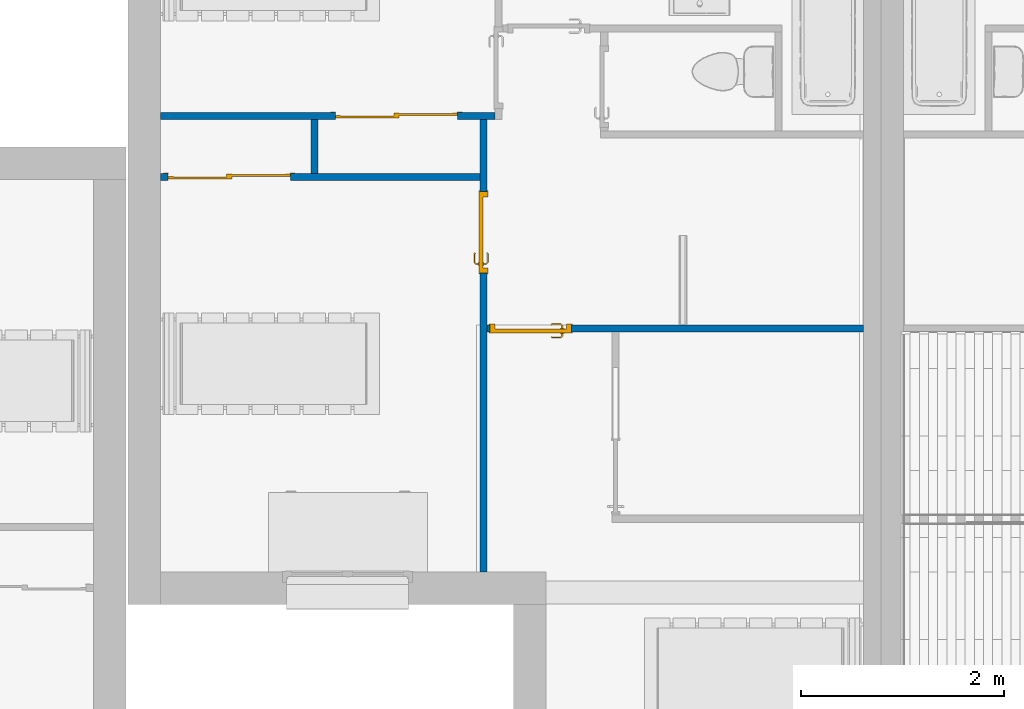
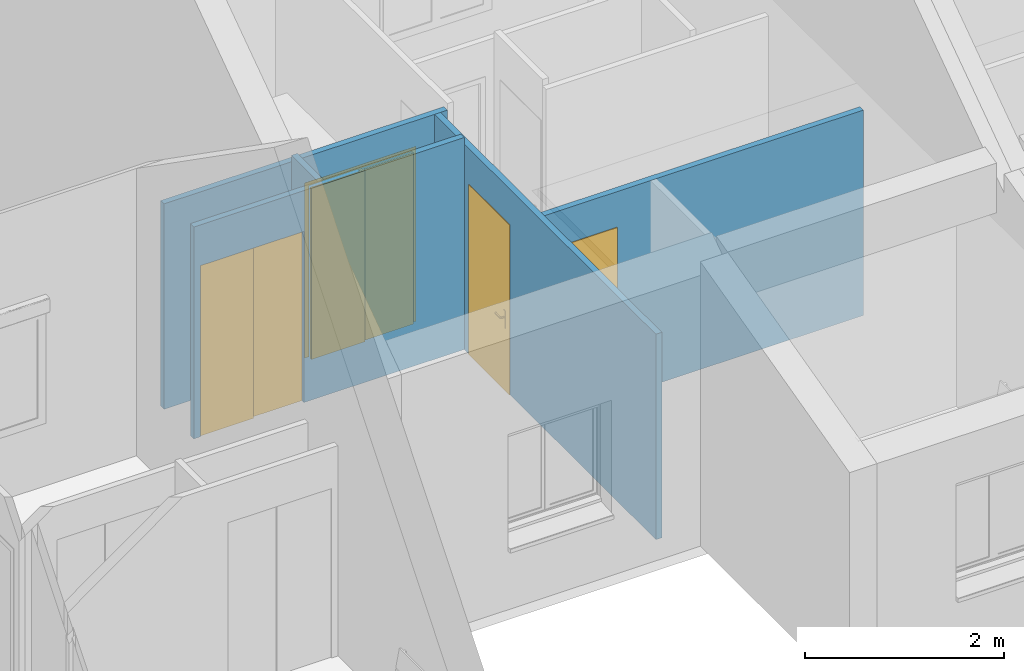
# One storey, part 30 of 50: 5 walls, 4 doors, 4 openings.
"""IFC2X3 building model written with IfcOpenShell, lengths in metres."""

from ifc_helpers import new_model, entity, si_unit, converted_unit, derived_unit, direction, frame, frame_2d, origin, origin_2d_with_axis, place, context, subcontext, project, spatial, polyline, circle_curve, parameter, trimmed, segment, composite_curve, rectangle, outline, extrude, faceted_brep, source, transform, mapped, material, material_list, layer, layer_set, layer_usage, type_object, type_shapes, element, fill, save


model = new_model("IFC2X3")

# Units and contexts
model_context = context("Model", 3, precision=1e-05, world=origin(), true_north=direction((6.12303176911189e-17, 1.0)))
context_of_model = context(None, 3, precision=1e-05, world=origin(), true_north=direction((6.12303176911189e-17, 1.0)))
body_context = subcontext(model_context, "Body", "Model", "MODEL_VIEW")
ifc_project = project(units=[si_unit("LENGTHUNIT", "METRE"), si_unit("AREAUNIT", "SQUARE_METRE"), si_unit("VOLUMEUNIT", "CUBIC_METRE"), converted_unit("PLANEANGLEUNIT", "DEGREE", entity("IfcRatioMeasure", 0.0174532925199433), si_unit("PLANEANGLEUNIT", "RADIAN"), dimensions=[0, 0, 0, 0, 0, 0, 0]), si_unit("MASSUNIT", "GRAM", prefix="KILO"), si_unit("TIMEUNIT", "SECOND"), si_unit("FREQUENCYUNIT", "HERTZ"), si_unit("THERMODYNAMICTEMPERATUREUNIT", "DEGREE_CELSIUS"), derived_unit("THERMALTRANSMITTANCEUNIT", [(si_unit("MASSUNIT", "GRAM", prefix="KILO"), 1), (si_unit("THERMODYNAMICTEMPERATUREUNIT", "KELVIN"), -1), (si_unit("TIMEUNIT", "SECOND"), -3)]), derived_unit("VOLUMETRICFLOWRATEUNIT", [(si_unit("LENGTHUNIT", "METRE"), 3), (si_unit("TIMEUNIT", "SECOND"), -1)]), si_unit("ELECTRICCURRENTUNIT", "AMPERE"), si_unit("ELECTRICVOLTAGEUNIT", "VOLT"), si_unit("POWERUNIT", "WATT"), si_unit("FORCEUNIT", "NEWTON", prefix="KILO"), si_unit("ILLUMINANCEUNIT", "LUX"), si_unit("LUMINOUSFLUXUNIT", "LUMEN"), si_unit("LUMINOUSINTENSITYUNIT", "CANDELA"), si_unit("PRESSUREUNIT", "PASCAL")], contexts=[model_context, context_of_model])

# Site, building, storey
site_placement = place(None, origin())
site = spatial("IfcSite", under=ifc_project, at=site_placement, Name="Surface", CompositionType="ELEMENT")
building_placement = place(site_placement, origin())
building = spatial("IfcBuilding", under=site, at=building_placement, CompositionType="ELEMENT")
storey_placement = place(building_placement, frame((0.0, 0.0, 2.82)))
storey = spatial("IfcBuildingStorey", under=building, at=storey_placement, Name="ETAGE", CompositionType="ELEMENT", Elevation=2.82)

# Wall, opening, door
ifc_material_1 = material(Name="Peinture - Blanc")
ifc_layer = layer(ifc_material_1, 0.07)
ifc_layer_set = layer_set([ifc_layer], Name="Mur de base:Int.  Platre 70 mm en blanc")
ifc_layer_usage_1 = layer_usage(ifc_layer_set, "AXIS2", "POSITIVE", -0.035)
wall_type = type_object("IfcWallType", Name="Mur de base:Int.  Platre 70 mm en blanc", PredefinedType="STANDARD", material=ifc_layer_set)
wall_1_placement = place(storey_placement, frame((79.7960189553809, 84.2475239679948, 0.0), z_axis=(0.0, 0.0, 1.0), x_axis=(0.0, 1.0, 0.0)))
wall_1 = element("IfcWallStandardCase", 1, at=wall_1_placement, inside=storey, type_object=wall_type, material=ifc_layer_usage_1, Name="Mur de base:Int.  Platre 70 mm en blanc", ObjectType="Mur de base:Int.  Platre 70 mm en blanc", context=body_context, shape_type="SweptSolid", body=[
    extrude(rectangle(XDim=4.44999999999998, YDim=0.0699999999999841, at=frame_2d((2.22499999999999, 0.0), x_axis=(-1.0, 0.0))), origin(), (0.0, 0.0, 1.0), 2.52),
])
opening_1_placement = place(wall_1_placement, frame((2.93999999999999, -0.035, 0.0)))
opening_1 = element("IfcOpeningElement", 2, at=opening_1_placement, cuts=wall_1, Name="FR_Simple (R):73 x 204 - (70):1", ObjectType="Opening", context=body_context, shape_type="SweptSolid", body=[
    extrude(rectangle(XDim=2.075, YDim=0.799999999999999, at=frame_2d((1.0375, 0.4), x_axis=(1.0, 0.0))), frame((0.0, 0.0, 0.0), z_axis=(0.0, 1.0, 0.0), x_axis=(0.0, 0.0, 1.0)), (0.0, 0.0, 1.0), 0.07),
])
ifc_material_2 = material(Name="Poignée Porte")
ifc_material_3 = material(Name="Dormants Portes")
ifc_material_4 = material(Name="Panneaux Portes")
ifc_material_list_1 = material_list([ifc_material_2, ifc_material_3, ifc_material_4])
ifc_material_list_2 = material_list([ifc_material_2, ifc_material_3, ifc_material_4])
door_style_1 = type_object("IfcDoorStyle", Name="73 x 204 - (70)", ConstructionType="NOTDEFINED", OperationType="SINGLE_SWING_RIGHT", ParameterTakesPrecedence=False, Sizeable=False, material=ifc_material_list_2)
shared_shape_1 = source(origin(), body_context, "Body", "Brep", [
    faceted_brep([(0.710000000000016, -0.0130000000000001, 0.764641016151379), (0.720352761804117, -0.0130000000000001, 0.766003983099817), (0.730000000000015, -0.0130000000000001, 0.770000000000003), (0.730000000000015, -0.0130000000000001, 0.980000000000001), (0.720352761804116, -0.0130000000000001, 0.983996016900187), (0.710000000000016, -0.0130000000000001, 0.985358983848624), (0.699647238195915, -0.0130000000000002, 0.983996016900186), (0.690000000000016, -0.0130000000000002, 0.980000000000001), (0.690000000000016, -0.0130000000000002, 0.770000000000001), (0.699647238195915, -0.0130000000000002, 0.766003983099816), (0.730000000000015, -0.00800000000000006, 0.980000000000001), (0.730000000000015, -0.00800000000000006, 0.770000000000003), (0.720352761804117, -0.00800000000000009, 0.766003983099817), (0.710000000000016, -0.00800000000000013, 0.764641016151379), (0.699647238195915, -0.00800000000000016, 0.766003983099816), (0.690000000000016, -0.00800000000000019, 0.770000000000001), (0.690000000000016, -0.00800000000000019, 0.980000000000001), (0.699647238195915, -0.00800000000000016, 0.983996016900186), (0.710000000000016, -0.00800000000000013, 0.985358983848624), (0.720352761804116, -0.00800000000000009, 0.983996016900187)], [[[0, 1, 2, 3, 4, 5, 6, 7, 8, 9]], [[10, 11, 12, 13, 14, 15, 16, 17, 18, 19]], [[1, 12, 11, 2]], [[0, 13, 12, 1]], [[9, 14, 13, 0]], [[9, 8, 15, 14]], [[15, 8, 7, 16]], [[6, 17, 16, 7]], [[5, 18, 17, 6]], [[4, 19, 18, 5]], [[4, 3, 10, 19]], [[10, 3, 2, 11]]]),
    faceted_brep([(0.730000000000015, 0.0319999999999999, 0.770000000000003), (0.730000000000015, 0.0319999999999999, 0.980000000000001), (0.720352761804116, 0.0319999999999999, 0.983996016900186), (0.710000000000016, 0.0319999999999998, 0.985358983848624), (0.699647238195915, 0.0319999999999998, 0.983996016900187), (0.690000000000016, 0.0319999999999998, 0.980000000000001), (0.690000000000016, 0.0319999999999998, 0.770000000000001), (0.699647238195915, 0.0319999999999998, 0.766003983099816), (0.710000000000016, 0.0319999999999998, 0.764641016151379), (0.720352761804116, 0.0319999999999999, 0.766003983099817), (0.710000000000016, 0.0369999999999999, 0.985358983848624), (0.720352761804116, 0.0369999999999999, 0.983996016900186), (0.730000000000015, 0.0369999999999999, 0.980000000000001), (0.730000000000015, 0.0369999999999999, 0.770000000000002), (0.720352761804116, 0.0369999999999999, 0.766003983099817), (0.710000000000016, 0.0369999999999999, 0.764641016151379), (0.699647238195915, 0.0369999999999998, 0.766003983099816), (0.690000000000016, 0.0369999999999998, 0.770000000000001), (0.690000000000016, 0.0369999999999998, 0.980000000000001), (0.699647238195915, 0.0369999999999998, 0.983996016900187)], [[[0, 1, 2, 3, 4, 5, 6, 7, 8, 9]], [[10, 11, 12, 13, 14, 15, 16, 17, 18, 19]], [[4, 19, 18, 5]], [[3, 10, 19, 4]], [[2, 11, 10, 3]], [[2, 1, 12, 11]], [[12, 1, 0, 13]], [[9, 14, 13, 0]], [[8, 15, 14, 9]], [[7, 16, 15, 8]], [[7, 6, 17, 16]], [[17, 6, 5, 18]]]),
    faceted_brep([(0.707974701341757, -0.0130000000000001, 0.907780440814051), (0.712025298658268, -0.0130000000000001, 0.907780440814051), (0.716000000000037, -0.0130000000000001, 0.906999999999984), (0.716000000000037, -0.0130000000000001, 0.892999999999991), (0.712025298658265, -0.0130000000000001, 0.892219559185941), (0.707974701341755, -0.0130000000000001, 0.89221955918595), (0.703999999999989, -0.0130000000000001, 0.893000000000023), (0.703999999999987, -0.0130000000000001, 0.90699999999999), (0.712025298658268, -0.0390045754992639, 0.907780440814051), (0.716000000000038, -0.0406509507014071, 0.906999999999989), (0.707974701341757, -0.0373267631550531, 0.907780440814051), (0.694298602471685, -0.0510028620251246, 0.907780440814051), (0.695976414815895, -0.0550534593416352, 0.907780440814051), (0.609142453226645, -0.0550534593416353, 0.90778044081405), (0.610820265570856, -0.0510028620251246, 0.90778044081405), (0.604342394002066, -0.0445249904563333, 0.90778044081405), (0.601478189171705, -0.0473891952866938, 0.90778044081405), (0.703999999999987, -0.0356803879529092, 0.90699999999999), (0.703999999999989, -0.0356803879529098, 0.893000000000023), (0.707974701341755, -0.0373267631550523, 0.89221955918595), (0.712025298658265, -0.0390045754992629, 0.89221955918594), (0.695976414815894, -0.0550534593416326, 0.89221955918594), (0.694298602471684, -0.0510028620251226, 0.89221955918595), (0.610820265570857, -0.0510028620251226, 0.89221955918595), (0.609142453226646, -0.0550534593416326, 0.89221955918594), (0.601478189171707, -0.0473891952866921, 0.89221955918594), (0.604342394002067, -0.044524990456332, 0.89221955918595), (0.716000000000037, -0.0406509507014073, 0.892999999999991), (0.69762279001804, -0.059028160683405, 0.906999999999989), (0.692652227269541, -0.0470281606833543, 0.90699999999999), (0.692652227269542, -0.0470281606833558, 0.893000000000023), (0.697622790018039, -0.0590281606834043, 0.892999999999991), (0.65255943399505, -0.053182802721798, 0.907878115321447), (0.657692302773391, -0.0590281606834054, 0.906999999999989), (0.607496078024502, -0.0590281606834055, 0.906999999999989), (0.652559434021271, -0.0470281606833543, 0.90699999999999), (0.612466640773, -0.0470281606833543, 0.906999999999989), (0.652559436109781, -0.0470281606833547, 0.893000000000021), (0.612466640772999, -0.0470281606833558, 0.893000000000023), (0.652559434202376, -0.0531828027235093, 0.892121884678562), (0.647426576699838, -0.0590281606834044, 0.892999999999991), (0.607496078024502, -0.0590281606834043, 0.892999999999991), (0.607152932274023, -0.0417144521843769, 0.89300000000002), (0.598667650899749, -0.0501997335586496, 0.892999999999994), (0.598667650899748, -0.0501997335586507, 0.906999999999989), (0.607152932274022, -0.0417144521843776, 0.906999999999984)], [[[0, 1, 2, 3, 4, 5, 6, 7]], [[2, 1, 8, 9]], [[1, 0, 10, 11, 12, 8]], [[13, 14, 15, 16]], [[0, 7, 17, 10]], [[18, 17, 7, 6]], [[5, 19, 18, 6]], [[5, 4, 20, 21, 22, 19]], [[23, 24, 25, 26]], [[3, 27, 20, 4]], [[9, 27, 3, 2]], [[9, 8, 12, 28]], [[10, 17, 29, 11]], [[30, 29, 17, 18]], [[18, 19, 22, 30]], [[20, 27, 31, 21]], [[28, 31, 27, 9]], [[12, 32, 33]], [[13, 33, 32]], [[33, 28, 12]], [[33, 13, 34]], [[11, 35, 32]], [[32, 12, 11]], [[32, 35, 14]], [[35, 11, 29]], [[36, 14, 35]], [[13, 32, 14]], [[30, 37, 38, 36, 35, 29]], [[39, 37, 22]], [[40, 41, 24]], [[40, 21, 31]], [[39, 21, 40]], [[23, 37, 39]], [[39, 24, 23]], [[30, 22, 37]], [[37, 23, 38]], [[21, 39, 22]], [[24, 39, 40]], [[31, 28, 33, 34, 41, 40]], [[42, 26, 25, 43, 44, 16, 15, 45]], [[13, 16, 44, 34]], [[36, 45, 15, 14]], [[42, 45, 36, 38]], [[38, 23, 26, 42]], [[24, 41, 43, 25]], [[44, 43, 41, 34]]]),
    faceted_brep([(0.712025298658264, 0.0369999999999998, 0.907780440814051), (0.707974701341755, 0.0369999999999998, 0.907780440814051), (0.703999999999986, 0.0369999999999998, 0.90699999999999), (0.703999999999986, 0.0369999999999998, 0.89300000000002), (0.707974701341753, 0.0369999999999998, 0.892219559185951), (0.712025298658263, 0.0369999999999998, 0.892219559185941), (0.716000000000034, 0.0369999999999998, 0.892999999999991), (0.716000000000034, 0.0369999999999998, 0.90699999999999), (0.703999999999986, 0.0594852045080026, 0.90699999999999), (0.703999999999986, 0.0594852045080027, 0.89300000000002), (0.707974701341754, 0.0611315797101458, 0.907780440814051), (0.712025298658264, 0.0628093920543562, 0.907780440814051), (0.695838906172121, 0.0789957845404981, 0.907780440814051), (0.69416109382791, 0.0749451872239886, 0.907780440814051), (0.610793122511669, 0.0749451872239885, 0.907780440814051), (0.609115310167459, 0.0789957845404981, 0.907780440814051), (0.601451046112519, 0.071331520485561, 0.907780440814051), (0.604315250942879, 0.0684673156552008, 0.907780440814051), (0.716000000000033, 0.0644557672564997, 0.90699999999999), (0.716000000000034, 0.0644557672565, 0.892999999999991), (0.712025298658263, 0.0628093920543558, 0.892219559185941), (0.707974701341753, 0.0611315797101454, 0.892219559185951), (0.69416109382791, 0.0749451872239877, 0.892219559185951), (0.69583890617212, 0.0789957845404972, 0.892219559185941), (0.609115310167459, 0.0789957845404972, 0.89221955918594), (0.610793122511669, 0.0749451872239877, 0.89221955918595), (0.60431525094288, 0.0684673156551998, 0.89221955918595), (0.60145104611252, 0.07133152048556, 0.89221955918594), (0.692514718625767, 0.07097048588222, 0.89300000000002), (0.692514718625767, 0.0709704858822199, 0.90699999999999), (0.697485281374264, 0.0829704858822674, 0.90699999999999), (0.697485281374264, 0.082970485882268, 0.892999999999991), (0.652477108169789, 0.0709704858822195, 0.90699999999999), (0.612439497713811, 0.0709704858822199, 0.90699999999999), (0.612439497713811, 0.0709704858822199, 0.89300000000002), (0.652477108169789, 0.0709704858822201, 0.89300000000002), (0.652477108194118, 0.0771249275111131, 0.907878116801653), (0.647399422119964, 0.0829704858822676, 0.90699999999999), (0.607468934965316, 0.0829704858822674, 0.90699999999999), (0.657554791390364, 0.0829704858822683, 0.892999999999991), (0.607468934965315, 0.082970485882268, 0.892999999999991), (0.65247710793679, 0.0771249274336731, 0.892121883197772), (0.598640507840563, 0.0741420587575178, 0.90699999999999), (0.598640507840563, 0.074142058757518, 0.892999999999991), (0.607125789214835, 0.0656567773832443, 0.89300000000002), (0.607125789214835, 0.0656567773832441, 0.90699999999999)], [[[0, 1, 2, 3, 4, 5, 6, 7]], [[8, 9, 3, 2]], [[1, 10, 8, 2]], [[1, 0, 11, 12, 13, 10]], [[14, 15, 16, 17]], [[7, 18, 11, 0]], [[18, 7, 6, 19]], [[6, 5, 20, 19]], [[5, 4, 21, 22, 23, 20]], [[24, 25, 26, 27]], [[4, 3, 9, 21]], [[28, 9, 8, 29]], [[8, 10, 13, 29]], [[18, 30, 12, 11]], [[31, 30, 18, 19]], [[19, 20, 23, 31]], [[21, 9, 28, 22]], [[28, 29, 32, 33, 34, 35]], [[36, 32, 13]], [[37, 38, 15]], [[37, 12, 30]], [[36, 12, 37]], [[14, 32, 36]], [[36, 15, 14]], [[29, 13, 32]], [[32, 14, 33]], [[12, 36, 13]], [[15, 36, 37]], [[30, 31, 39, 40, 38, 37]], [[23, 41, 39]], [[24, 39, 41]], [[39, 31, 23]], [[39, 24, 40]], [[22, 35, 41]], [[41, 23, 22]], [[41, 35, 25]], [[35, 22, 28]], [[34, 25, 35]], [[24, 41, 25]], [[17, 16, 42, 43, 27, 26, 44, 45]], [[44, 34, 33, 45]], [[33, 14, 17, 45]], [[15, 38, 42, 16]], [[42, 38, 40, 43]], [[24, 27, 43, 40]], [[34, 44, 26, 25]]]),
    faceted_brep([(0.800000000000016, 0.0, 0.0), (0.810000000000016, 0.0, 0.0), (0.810000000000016, -0.00799999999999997, 0.0), (0.765000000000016, -0.00799999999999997, 0.0), (0.765000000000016, 0.032, 0.0), (0.750000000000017, 0.032, 0.0), (0.750000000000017, 0.0780000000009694, 0.0), (0.810000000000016, 0.0780000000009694, 0.0), (0.810000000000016, 0.0700000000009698, 0.0), (0.800000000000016, 0.0700000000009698, 0.0), (0.800000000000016, 0.0700000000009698, 2.075), (0.800000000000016, 0.0, 2.075), (0.810000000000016, 0.0700000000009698, 2.085), (-0.00999999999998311, 0.0700000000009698, 2.085), (-0.00999999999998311, 0.0700000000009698, 0.0), (0.0, 0.0700000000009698, 0.0), (0.0, 0.0700000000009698, 2.075), (0.810000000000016, 0.0780000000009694, 2.085), (0.750000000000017, 0.0780000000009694, 2.025), (0.0500000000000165, 0.0780000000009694, 2.025), (0.0500000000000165, 0.0780000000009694, 0.0), (-0.00999999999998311, 0.0780000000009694, 0.0), (-0.00999999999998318, 0.0780000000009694, 2.085), (0.750000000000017, 0.032, 2.025), (0.765000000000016, 0.032, 2.04), (0.0350000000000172, 0.032, 2.04), (0.0350000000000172, 0.032, 0.0), (0.0500000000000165, 0.032, 0.0), (0.0500000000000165, 0.032, 2.025), (0.765000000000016, -0.00799999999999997, 2.04), (0.810000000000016, -0.00799999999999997, 2.085), (-0.00999999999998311, -0.00799999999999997, 2.085), (-0.00999999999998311, -0.00799999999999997, 0.0), (0.0350000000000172, -0.00799999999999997, 0.0), (0.0350000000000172, -0.00799999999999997, 2.04), (0.810000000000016, 0.0, 2.085), (0.0, 0.0, 2.075), (0.0, 0.0, 0.0), (-0.00999999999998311, 0.0, 0.0), (-0.00999999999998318, 0.0, 2.085)], [[[0, 1, 2, 3, 4, 5, 6, 7, 8, 9]], [[9, 10, 11, 0]], [[8, 12, 13, 14, 15, 16, 10, 9]], [[7, 17, 12, 8]], [[6, 18, 19, 20, 21, 22, 17, 7]], [[5, 23, 18, 6]], [[4, 24, 25, 26, 27, 28, 23, 5]], [[3, 29, 24, 4]], [[2, 30, 31, 32, 33, 34, 29, 3]], [[1, 35, 30, 2]], [[0, 11, 36, 37, 38, 39, 35, 1]], [[10, 16, 36, 11]], [[17, 22, 13, 12]], [[23, 28, 19, 18]], [[29, 34, 25, 24]], [[35, 39, 31, 30]], [[37, 15, 14, 21, 20, 27, 26, 33, 32, 38]], [[16, 15, 37, 36]], [[22, 21, 14, 13]], [[28, 27, 20, 19]], [[34, 33, 26, 25]], [[39, 38, 32, 31]]]),
    faceted_brep([(0.765000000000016, -0.00799999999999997, 2.04), (0.0350000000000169, -0.00799999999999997, 2.04), (0.0350000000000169, -0.00799999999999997, 0.0), (0.765000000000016, -0.00799999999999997, 0.0), (0.765000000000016, 0.032, 2.04), (0.765000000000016, 0.032, 0.0), (0.0350000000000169, 0.032, 0.0), (0.0350000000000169, 0.032, 2.04)], [[[0, 1, 2, 3]], [[4, 5, 6, 7]], [[3, 5, 4, 0]], [[2, 6, 5, 3]], [[1, 7, 6, 2]], [[0, 4, 7, 1]]]),
])
type_shapes(door_style_1, [shared_shape_1])
door_1_placement = place(opening_1_placement, frame((0.80000000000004, 0.0699999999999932, 0.0), z_axis=(0.0, 0.0, 1.0), x_axis=(-1.0, 0.0, 0.0)))
door_1 = element("IfcDoor", 3, at=door_1_placement, inside=storey, type_object=door_style_1, material=ifc_material_list_1, Name="FR_Simple (R):73 x 204 - (70)", ObjectType="73 x 204 - (70)", OverallHeight=2.075, OverallWidth=0.800000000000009, context=body_context, shape_type="MappedRepresentation", body=[
    mapped(shared_shape_1, transform((0.0, 0.0, 0.0), scale=1.0)),
])
fill(opening_1, door_1)

ifc_layer_usage_2 = layer_usage(ifc_layer_set, "AXIS2", "POSITIVE", -0.035)
wall_2_placement = place(storey_placement, frame((79.8310189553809, 86.6425239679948, 0.0)))
wall_2 = element("IfcWallStandardCase", 4, at=wall_2_placement, inside=storey, type_object=wall_type, material=ifc_layer_usage_2, Name="Mur de base:Int.  Platre 70 mm en blanc", ObjectType="Mur de base:Int.  Platre 70 mm en blanc", context=body_context, shape_type="SweptSolid", body=[
    extrude(rectangle(XDim=3.70038340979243, YDim=0.0699999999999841, at=frame_2d((1.85019170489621, 0.0), x_axis=(-1.0, 0.0))), origin(), (0.0, 0.0, 1.0), 2.52),
])
opening_2_placement = place(wall_2_placement, frame((0.829999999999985, 0.035, 0.0)))
opening_2 = element("IfcOpeningElement", 5, at=opening_2_placement, cuts=wall_2, Name="FR_Simple (R):73 x 204 - (70):1", ObjectType="Opening", context=body_context, shape_type="SweptSolid", body=[
    extrude(rectangle(XDim=2.075, YDim=0.799999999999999, at=frame_2d((1.0375, 0.4), x_axis=(1.0, 0.0))), frame((0.0, 0.0, 0.0), z_axis=(0.0, -1.0, 0.0), x_axis=(0.0, 0.0, 1.0)), (0.0, 0.0, 1.0), 0.07),
])
ifc_material_list_3 = material_list([ifc_material_2, ifc_material_3, ifc_material_4])
door_2_placement = place(opening_2_placement, frame((-0.800000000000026, -0.0699999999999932, 0.0)))
door_2 = element("IfcDoor", 6, at=door_2_placement, inside=storey, type_object=door_style_1, material=ifc_material_list_3, Name="FR_Simple (R):73 x 204 - (70)", ObjectType="73 x 204 - (70)", OverallHeight=2.075, OverallWidth=0.800000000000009, context=body_context, shape_type="MappedRepresentation", body=[
    mapped(shared_shape_1, transform((0.0, 0.0, 0.0), scale=1.0)),
])
fill(opening_2, door_2)

ifc_layer_usage_3 = layer_usage(ifc_layer_set, "AXIS2", "POSITIVE", -0.035)
wall_3_placement = place(storey_placement, frame((79.9089023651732, 88.7325239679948, 0.0), z_axis=(0.0, 0.0, 1.0), x_axis=(-1.0, 0.0, 0.0)))
wall_3 = element("IfcWallStandardCase", 7, at=wall_3_placement, inside=storey, type_object=wall_type, material=ifc_layer_usage_3, Name="Mur de base:Int.  Platre 70 mm en blanc", ObjectType="Mur de base:Int.  Platre 70 mm en blanc", context=body_context, shape_type="SweptSolid", body=[
    extrude(rectangle(XDim=3.28614635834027, YDim=0.0699999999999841, at=frame_2d((1.64307317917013, -2.15105711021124e-16), x_axis=(-1.0, 0.0))), origin(), (0.0, 0.0, 1.0), 2.52),
])
opening_3_placement = place(wall_3_placement, frame((1.56869914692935, 0.0350000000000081, 0.0)))
opening_3 = element("IfcOpeningElement", 8, at=opening_3_placement, cuts=wall_3, Name="Placard coulissante - 2 panneaux:Placard coulissante - 2 panneaux:1", ObjectType="Opening", context=body_context, shape_type="SweptSolid", body=[
    extrude(rectangle(XDim=2.09999999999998, YDim=1.2, at=frame_2d((1.04999999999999, 0.6), x_axis=(1.0, 0.0))), frame((0.0, 0.0, 0.0), z_axis=(0.0, -1.0, 0.0), x_axis=(0.0, 0.0, 1.0)), (0.0, 0.0, 1.0), 0.07),
])
ifc_material_5 = material(Name="Placard - Profil")
ifc_material_6 = material(Name="Placard - Encadrement")
ifc_material_7 = material(Name="Placard - Porte")
ifc_material_list_4 = material_list([ifc_material_5, ifc_material_6, ifc_material_7])
ifc_material_list_5 = material_list([ifc_material_5, ifc_material_6, ifc_material_7])
door_style_2 = type_object("IfcDoorStyle", Name="Placard coulissante - 2 panneaux", ConstructionType="NOTDEFINED", OperationType="SLIDING_TO_RIGHT", ParameterTakesPrecedence=False, Sizeable=False, material=ifc_material_list_5)
shared_shape_2 = source(origin(), body_context, "Body", "SweptSolid", [
    extrude(outline(composite_curve([segment(polyline([(-0.00100000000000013, -0.0249999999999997), (0.00100000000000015, -0.0249999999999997)]), True, "CONTINUOUS"), segment(trimmed(circle_curve(frame_2d((-0.212860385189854, 0.0), x_axis=(0.0, -1.0)), 0.215316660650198), [parameter(83.3324595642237)], [parameter(96.6675404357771)], True, "PARAMETER"), True, "CONTINUOUS"), segment(polyline([(0.00100000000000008, 0.0249999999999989), (-0.00100000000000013, 0.0250000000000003)]), True, "CONTINUOUS"), segment(polyline([(-0.00100000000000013, 0.0250000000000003), (-0.00100000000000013, -0.0249999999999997)]), True, "CONTINUOUS")], self_intersect=False)), frame((0.0250000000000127, 0.00900000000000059, 0.0), z_axis=(0.0, 0.0, 1.0), x_axis=(0.0, -1.0, 0.0)), (0.0, 0.0, 1.0), 2.1),
    extrude(outline(composite_curve([segment(polyline([(-0.00100000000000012, -0.0249999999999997), (0.00100000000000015, -0.0249999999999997)]), True, "CONTINUOUS"), segment(trimmed(circle_curve(frame_2d((-0.212860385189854, 0.0), x_axis=(0.0, -1.0)), 0.215316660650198), [parameter(83.3324595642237)], [parameter(96.6675404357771)], True, "PARAMETER"), True, "CONTINUOUS"), segment(polyline([(0.00100000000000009, 0.0249999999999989), (-0.00100000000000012, 0.0250000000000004)]), True, "CONTINUOUS"), segment(polyline([(-0.00100000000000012, 0.0250000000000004), (-0.00100000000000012, -0.0249999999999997)]), True, "CONTINUOUS")], self_intersect=False)), frame((0.600000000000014, 0.00900000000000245, 0.0), z_axis=(0.0, 0.0, 1.0), x_axis=(0.0, -1.0, 0.0)), (0.0, 0.0, 1.0), 2.1),
    extrude(outline(composite_curve([segment(polyline([(-0.00100000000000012, -0.0249999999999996), (0.00100000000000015, -0.0249999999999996)]), True, "CONTINUOUS"), segment(trimmed(circle_curve(frame_2d((-0.212860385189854, 0.0), x_axis=(0.0, -1.0)), 0.215316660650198), [parameter(83.3324595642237)], [parameter(96.6675404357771)], True, "PARAMETER"), True, "CONTINUOUS"), segment(polyline([(0.00100000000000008, 0.0249999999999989), (-0.00100000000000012, 0.0250000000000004)]), True, "CONTINUOUS"), segment(polyline([(-0.00100000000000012, 0.0250000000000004), (-0.00100000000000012, -0.0249999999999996)]), True, "CONTINUOUS")], self_intersect=False)), frame((0.600000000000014, 0.0340000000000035, 0.0), z_axis=(0.0, 0.0, 1.0), x_axis=(0.0, -1.0, 0.0)), (0.0, 0.0, 1.0), 2.1),
    extrude(outline(composite_curve([segment(polyline([(-0.00100000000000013, -0.0249999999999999), (0.00100000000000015, -0.0249999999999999)]), True, "CONTINUOUS"), segment(trimmed(circle_curve(frame_2d((-0.212860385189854, 0.0), x_axis=(0.0, -1.0)), 0.215316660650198), [parameter(83.3324595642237)], [parameter(96.6675404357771)], True, "PARAMETER"), True, "CONTINUOUS"), segment(polyline([(0.00100000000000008, 0.0249999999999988), (-0.00100000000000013, 0.0250000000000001)]), True, "CONTINUOUS"), segment(polyline([(-0.00100000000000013, 0.0250000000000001), (-0.00100000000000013, -0.0249999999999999)]), True, "CONTINUOUS")], self_intersect=False)), frame((1.17500000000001, 0.0340000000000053, 0.0), z_axis=(0.0, 0.0, 1.0), x_axis=(0.0, -1.0, 0.0)), (0.0, 0.0, 1.0), 2.1),
    extrude(outline(polyline([(0.597999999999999, -1.06149999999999), (0.647999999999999, -1.06149999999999), (0.647999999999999, 1.08649999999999), (-0.647999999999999, 1.08649999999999), (-0.647999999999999, -1.06149999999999), (-0.597999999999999, -1.06149999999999), (-0.597999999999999, 1.03649999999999), (0.597999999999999, 1.03649999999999), (0.597999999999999, -1.06149999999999)])), frame((0.600000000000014, 0.0, 1.06149999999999), z_axis=(0.0, -1.0, 0.0), x_axis=(1.0, 0.0, 0.0)), (0.0, 0.0, 1.0), 0.003),
    extrude(rectangle(XDim=0.625000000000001, YDim=0.020000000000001, at=origin_2d_with_axis()), frame((0.312500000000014, 0.0200000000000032, 0.0)), (0.0, 0.0, 1.0), 2.1),
    extrude(rectangle(XDim=0.624999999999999, YDim=0.02, at=origin_2d_with_axis()), frame((0.887500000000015, 0.0450000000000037, 0.0)), (0.0, 0.0, 1.0), 2.1),
])
type_shapes(door_style_2, [shared_shape_2])
door_3_placement = place(opening_3_placement, frame((-1.2, -0.0700000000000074, 0.0)))
door_3 = element("IfcDoor", 9, at=door_3_placement, inside=storey, type_object=door_style_2, material=ifc_material_list_4, Name="Placard coulissante - 2 panneaux:Placard coulissante - 2 panneaux", ObjectType="Placard coulissante - 2 panneaux", OverallHeight=2.09999999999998, OverallWidth=1.2, context=body_context, shape_type="MappedRepresentation", body=[
    mapped(shared_shape_2, transform((0.0, 0.0, 0.0), scale=1.0)),
])
fill(opening_3, door_3)

ifc_layer_usage_4 = layer_usage(ifc_layer_set, "AXIS2", "POSITIVE", -0.035)
wall_4_placement = place(storey_placement, frame((79.7610189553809, 88.1325239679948, 0.0), z_axis=(0.0, 0.0, 1.0), x_axis=(-1.0, 0.0, 0.0)))
wall_4 = element("IfcWallStandardCase", 10, at=wall_4_placement, inside=storey, type_object=wall_type, material=ifc_layer_usage_4, Name="Mur de base:Int.  Platre 70 mm en blanc", ObjectType="Mur de base:Int.  Platre 70 mm en blanc", context=body_context, shape_type="SweptSolid", body=[
    extrude(rectangle(XDim=3.13826294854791, YDim=0.0699999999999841, at=frame_2d((1.56913147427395, 8.53483950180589e-16), x_axis=(-1.0, 0.0))), origin(), (0.0, 0.0, 1.0), 2.6),
])
opening_4_placement = place(wall_4_placement, frame((3.06326294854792, 0.0350000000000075, 0.0)))
opening_4 = element("IfcOpeningElement", 11, at=opening_4_placement, cuts=wall_4, Name="Placard coulissante - 2 panneaux:Placard coulissante - 2 panneaux:1", ObjectType="Opening", context=body_context, shape_type="SweptSolid", body=[
    extrude(rectangle(XDim=2.09999999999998, YDim=1.2, at=frame_2d((1.04999999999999, 0.6), x_axis=(1.0, 0.0))), frame((0.0, 0.0, 0.0), z_axis=(0.0, -1.0, 0.0), x_axis=(0.0, 0.0, 1.0)), (0.0, 0.0, 1.0), 0.07),
])
ifc_material_list_6 = material_list([ifc_material_5, ifc_material_6, ifc_material_7])
door_4_placement = place(opening_4_placement, frame((-1.2, -0.0699999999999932, 0.0)))
door_4 = element("IfcDoor", 12, at=door_4_placement, inside=storey, type_object=door_style_2, material=ifc_material_list_6, Name="Placard coulissante - 2 panneaux:Placard coulissante - 2 panneaux", ObjectType="Placard coulissante - 2 panneaux", OverallHeight=2.09999999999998, OverallWidth=1.2, context=body_context, shape_type="MappedRepresentation", body=[
    mapped(shared_shape_2, transform((0.0, 0.0, 0.0), scale=1.0)),
])
fill(opening_4, door_4)

# Wall
ifc_layer_usage_5 = layer_usage(ifc_layer_set, "AXIS2", "POSITIVE", -0.035)
wall_5_placement = place(storey_placement, frame((78.1343874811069, 88.1675239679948, 0.0), z_axis=(0.0, 0.0, 1.0), x_axis=(0.0, 1.0, 0.0)))
element("IfcWallStandardCase", 13, at=wall_5_placement, inside=storey, type_object=wall_type, material=ifc_layer_usage_5, Name="Mur de base:Int.  Platre 70 mm en blanc", ObjectType="Mur de base:Int.  Platre 70 mm en blanc", context=body_context, shape_type="SweptSolid", body=[
    extrude(rectangle(XDim=0.529999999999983, YDim=0.0699999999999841, at=frame_2d((0.264999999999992, 0.0), x_axis=(-1.0, 0.0))), origin(), (0.0, 0.0, 1.0), 2.6),
])

save(model, "model.ifc")
